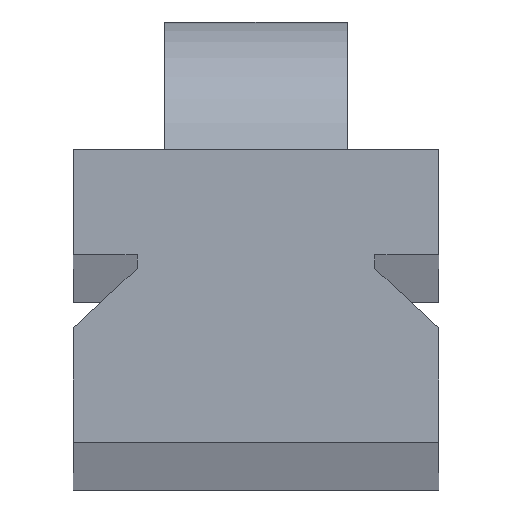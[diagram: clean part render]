
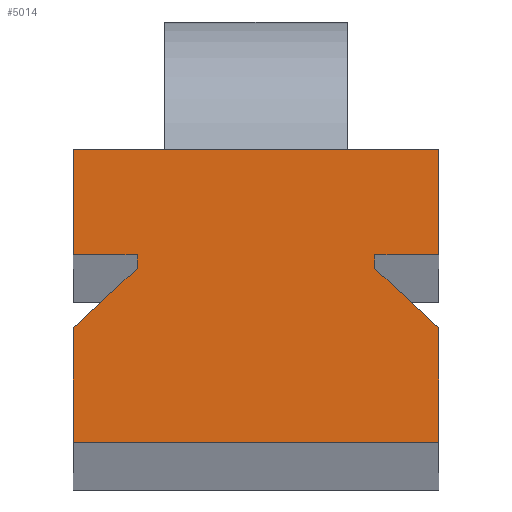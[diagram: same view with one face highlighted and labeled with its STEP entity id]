
A CAD part, top view. The second image highlights one B-rep face of the part: STEP entity #5014.
In plain terms, the highlighted planar face has unit normal (0, 0, 1).
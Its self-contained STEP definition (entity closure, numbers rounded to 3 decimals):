
#67 = ORIENTED_EDGE ( 'NONE', *, *, #6214, .T. ) ;
#107 = CARTESIAN_POINT ( 'NONE',  ( -20., 20.5, 40. ) ) ;
#193 = EDGE_CURVE ( 'NONE', #1808, #4927, #3290, .T. ) ;
#283 = VERTEX_POINT ( 'NONE', #3351 ) ;
#317 = EDGE_CURVE ( 'NONE', #1927, #1808, #411, .T. ) ;
#341 = VECTOR ( 'NONE', #3860, 1000. ) ;
#411 = LINE ( 'NONE', #107, #341 ) ;
#532 = DIRECTION ( 'NONE',  ( 0., -1., 0. ) ) ;
#581 = CARTESIAN_POINT ( 'NONE',  ( 0., 0., 40. ) ) ;
#703 = EDGE_LOOP ( 'NONE', ( #1561, #1673, #4532, #3007, #67, #6166, #3310, #749, #5865, #6039, #5019, #3712 ) ) ;
#749 = ORIENTED_EDGE ( 'NONE', *, *, #5876, .T. ) ;
#768 = CARTESIAN_POINT ( 'NONE',  ( -20., 32., 40. ) ) ;
#818 = DIRECTION ( 'NONE',  ( 0., 1., 0. ) ) ;
#848 = LINE ( 'NONE', #3311, #3609 ) ;
#1103 = VECTOR ( 'NONE', #5711, 1000. ) ;
#1175 = DIRECTION ( 'NONE',  ( 0., 1., 0. ) ) ;
#1263 = EDGE_CURVE ( 'NONE', #4627, #2926, #5257, .T. ) ;
#1290 = DIRECTION ( 'NONE',  ( 0., 1., 0. ) ) ;
#1371 = VERTEX_POINT ( 'NONE', #3493 ) ;
#1517 = VECTOR ( 'NONE', #818, 1000. ) ;
#1561 = ORIENTED_EDGE ( 'NONE', *, *, #3506, .T. ) ;
#1578 = LINE ( 'NONE', #4482, #5399 ) ;
#1631 = CARTESIAN_POINT ( 'NONE',  ( -20., 12.5, 40. ) ) ;
#1668 = AXIS2_PLACEMENT_3D ( 'NONE', #581, #2462, #3017 ) ;
#1673 = ORIENTED_EDGE ( 'NONE', *, *, #4943, .T. ) ;
#1683 = DIRECTION ( 'NONE',  ( -1., 0., 0. ) ) ;
#1769 = CARTESIAN_POINT ( 'NONE',  ( 20., 32., 40. ) ) ;
#1785 = CARTESIAN_POINT ( 'NONE',  ( -20., 20.5, 40. ) ) ;
#1807 = CARTESIAN_POINT ( 'NONE',  ( -13., 19., 40. ) ) ;
#1808 = VERTEX_POINT ( 'NONE', #2014 ) ;
#1899 = EDGE_CURVE ( 'NONE', #4927, #4041, #4206, .T. ) ;
#1927 = VERTEX_POINT ( 'NONE', #1785 ) ;
#2014 = CARTESIAN_POINT ( 'NONE',  ( -13., 20.5, 40. ) ) ;
#2202 = VECTOR ( 'NONE', #2979, 1000. ) ;
#2380 = CARTESIAN_POINT ( 'NONE',  ( 20., 12.5, 40. ) ) ;
#2446 = CARTESIAN_POINT ( 'NONE',  ( 20., 0., 40. ) ) ;
#2462 = DIRECTION ( 'NONE',  ( 0., 0., -1. ) ) ;
#2511 = LINE ( 'NONE', #4383, #2202 ) ;
#2517 = VECTOR ( 'NONE', #1683, 1000. ) ;
#2632 = VERTEX_POINT ( 'NONE', #3879 ) ;
#2735 = LINE ( 'NONE', #1769, #3469 ) ;
#2823 = VECTOR ( 'NONE', #1175, 1000. ) ;
#2926 = VERTEX_POINT ( 'NONE', #2380 ) ;
#2979 = DIRECTION ( 'NONE',  ( -0.733, 0.68, 0. ) ) ;
#3007 = ORIENTED_EDGE ( 'NONE', *, *, #5477, .T. ) ;
#3017 = DIRECTION ( 'NONE',  ( -1., 0., 0. ) ) ;
#3099 = CARTESIAN_POINT ( 'NONE',  ( 20., 20.5, 40. ) ) ;
#3283 = VERTEX_POINT ( 'NONE', #6114 ) ;
#3290 = LINE ( 'NONE', #3794, #4934 ) ;
#3310 = ORIENTED_EDGE ( 'NONE', *, *, #3733, .T. ) ;
#3311 = CARTESIAN_POINT ( 'NONE',  ( -20., 0., 40. ) ) ;
#3351 = CARTESIAN_POINT ( 'NONE',  ( 20., 32., 40. ) ) ;
#3469 = VECTOR ( 'NONE', #1290, 1000. ) ;
#3493 = CARTESIAN_POINT ( 'NONE',  ( 13., 20.5, 40. ) ) ;
#3506 = EDGE_CURVE ( 'NONE', #4041, #2632, #1578, .T. ) ;
#3584 = DIRECTION ( 'NONE',  ( 0., -1., 0. ) ) ;
#3604 = LINE ( 'NONE', #5551, #2823 ) ;
#3609 = VECTOR ( 'NONE', #4714, 1000. ) ;
#3612 = LINE ( 'NONE', #4090, #6271 ) ;
#3663 = CARTESIAN_POINT ( 'NONE',  ( -20., 12.5, 40. ) ) ;
#3683 = CARTESIAN_POINT ( 'NONE',  ( 20., 20.5, 40. ) ) ;
#3712 = ORIENTED_EDGE ( 'NONE', *, *, #1899, .T. ) ;
#3733 = EDGE_CURVE ( 'NONE', #6107, #283, #2735, .T. ) ;
#3748 = DIRECTION ( 'NONE',  ( 1., 0., 0. ) ) ;
#3794 = CARTESIAN_POINT ( 'NONE',  ( -13., 20.5, 40. ) ) ;
#3860 = DIRECTION ( 'NONE',  ( 1., 0., 0. ) ) ;
#3879 = CARTESIAN_POINT ( 'NONE',  ( -20., 0., 40. ) ) ;
#4041 = VERTEX_POINT ( 'NONE', #1631 ) ;
#4090 = CARTESIAN_POINT ( 'NONE',  ( -20., 32., 40. ) ) ;
#4206 = LINE ( 'NONE', #3663, #1103 ) ;
#4242 = DIRECTION ( 'NONE',  ( 0., -1., 0. ) ) ;
#4383 = CARTESIAN_POINT ( 'NONE',  ( 20., 12.5, 40. ) ) ;
#4482 = CARTESIAN_POINT ( 'NONE',  ( -20., 0., 40. ) ) ;
#4488 = EDGE_CURVE ( 'NONE', #1371, #6107, #6103, .T. ) ;
#4514 = VERTEX_POINT ( 'NONE', #768 ) ;
#4532 = ORIENTED_EDGE ( 'NONE', *, *, #1263, .T. ) ;
#4591 = CARTESIAN_POINT ( 'NONE',  ( 20., 32., 40. ) ) ;
#4627 = VERTEX_POINT ( 'NONE', #2446 ) ;
#4714 = DIRECTION ( 'NONE',  ( 1., 0., 0. ) ) ;
#4748 = CARTESIAN_POINT ( 'NONE',  ( 20., 0., 40. ) ) ;
#4927 = VERTEX_POINT ( 'NONE', #1807 ) ;
#4934 = VECTOR ( 'NONE', #4242, 1000. ) ;
#4935 = FACE_OUTER_BOUND ( 'NONE', #703, .T. ) ;
#4943 = EDGE_CURVE ( 'NONE', #2632, #4627, #848, .T. ) ;
#4964 = PLANE ( 'NONE',  #1668 ) ;
#5014 = ADVANCED_FACE ( 'NONE', ( #4935 ), #4964, .F. ) ;
#5019 = ORIENTED_EDGE ( 'NONE', *, *, #193, .T. ) ;
#5253 = EDGE_CURVE ( 'NONE', #4514, #1927, #3612, .T. ) ;
#5257 = LINE ( 'NONE', #4748, #1517 ) ;
#5399 = VECTOR ( 'NONE', #532, 1000. ) ;
#5477 = EDGE_CURVE ( 'NONE', #2926, #3283, #2511, .T. ) ;
#5551 = CARTESIAN_POINT ( 'NONE',  ( 13., 20.5, 40. ) ) ;
#5650 = VECTOR ( 'NONE', #3748, 1000. ) ;
#5711 = DIRECTION ( 'NONE',  ( -0.733, -0.68, 0. ) ) ;
#5865 = ORIENTED_EDGE ( 'NONE', *, *, #5253, .T. ) ;
#5876 = EDGE_CURVE ( 'NONE', #283, #4514, #5991, .T. ) ;
#5991 = LINE ( 'NONE', #4591, #2517 ) ;
#6039 = ORIENTED_EDGE ( 'NONE', *, *, #317, .T. ) ;
#6103 = LINE ( 'NONE', #3683, #5650 ) ;
#6107 = VERTEX_POINT ( 'NONE', #3099 ) ;
#6114 = CARTESIAN_POINT ( 'NONE',  ( 13., 19., 40. ) ) ;
#6166 = ORIENTED_EDGE ( 'NONE', *, *, #4488, .T. ) ;
#6214 = EDGE_CURVE ( 'NONE', #3283, #1371, #3604, .T. ) ;
#6271 = VECTOR ( 'NONE', #3584, 1000. ) ;
